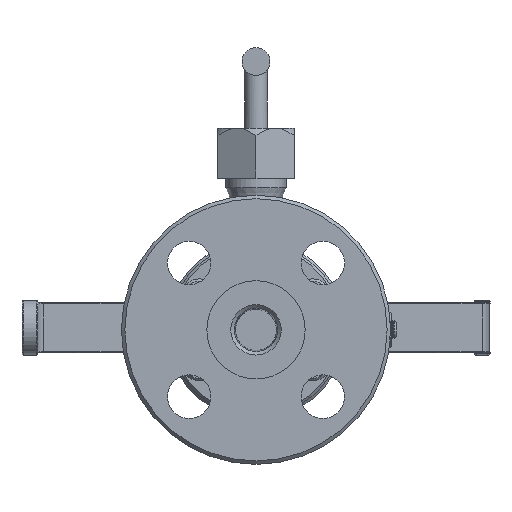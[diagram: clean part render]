
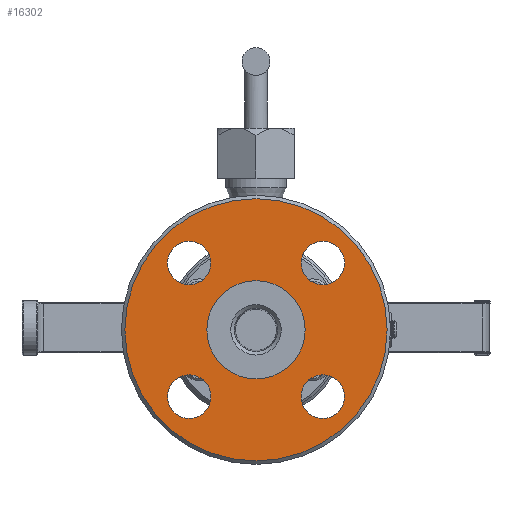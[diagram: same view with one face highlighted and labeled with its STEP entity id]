
A CAD part, left-side view. The second image highlights one B-rep face of the part: STEP entity #16302.
In plain terms, the highlighted planar face has unit normal (-1, 0, 0).
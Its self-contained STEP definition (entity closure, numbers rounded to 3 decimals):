
#3412=FACE_BOUND('',#4548,.T.);
#3413=FACE_BOUND('',#4549,.T.);
#3414=FACE_BOUND('',#4550,.T.);
#3415=FACE_BOUND('',#4551,.T.);
#3416=FACE_BOUND('',#4552,.T.);
#3586=FACE_OUTER_BOUND('',#4547,.T.);
#4547=EDGE_LOOP('',(#11181,#11182));
#4548=EDGE_LOOP('',(#11183));
#4549=EDGE_LOOP('',(#11184));
#4550=EDGE_LOOP('',(#11185));
#4551=EDGE_LOOP('',(#11186));
#4552=EDGE_LOOP('',(#11187,#11188));
#5567=CIRCLE('',#17375,9.5);
#5569=CIRCLE('',#17378,9.5);
#5571=CIRCLE('',#17381,9.5);
#5573=CIRCLE('',#17384,9.5);
#5599=CIRCLE('',#17421,57.25);
#5600=CIRCLE('',#17422,57.25);
#5601=CIRCLE('',#17424,21.45);
#5602=CIRCLE('',#17425,21.45);
#6559=VERTEX_POINT('',#24340);
#6561=VERTEX_POINT('',#24346);
#6563=VERTEX_POINT('',#24352);
#6565=VERTEX_POINT('',#24358);
#6588=VERTEX_POINT('',#24425);
#6589=VERTEX_POINT('',#24426);
#6590=VERTEX_POINT('',#24431);
#6591=VERTEX_POINT('',#24432);
#8321=EDGE_CURVE('',#6559,#6559,#5567,.T.);
#8324=EDGE_CURVE('',#6561,#6561,#5569,.T.);
#8327=EDGE_CURVE('',#6563,#6563,#5571,.T.);
#8330=EDGE_CURVE('',#6565,#6565,#5573,.T.);
#8362=EDGE_CURVE('',#6588,#6589,#5599,.T.);
#8364=EDGE_CURVE('',#6589,#6588,#5600,.T.);
#8365=EDGE_CURVE('',#6590,#6591,#5601,.T.);
#8366=EDGE_CURVE('',#6591,#6590,#5602,.T.);
#11181=ORIENTED_EDGE('',*,*,#8362,.F.);
#11182=ORIENTED_EDGE('',*,*,#8364,.F.);
#11183=ORIENTED_EDGE('',*,*,#8321,.F.);
#11184=ORIENTED_EDGE('',*,*,#8324,.F.);
#11185=ORIENTED_EDGE('',*,*,#8327,.F.);
#11186=ORIENTED_EDGE('',*,*,#8330,.F.);
#11187=ORIENTED_EDGE('',*,*,#8365,.T.);
#11188=ORIENTED_EDGE('',*,*,#8366,.T.);
#15899=PLANE('',#17423);
#16302=ADVANCED_FACE('',(#3586,#3412,#3413,#3414,#3415,#3416),#15899,.F.);
#17375=AXIS2_PLACEMENT_3D('',#24342,#19525,#19526);
#17378=AXIS2_PLACEMENT_3D('',#24348,#19532,#19533);
#17381=AXIS2_PLACEMENT_3D('',#24354,#19539,#19540);
#17384=AXIS2_PLACEMENT_3D('',#24360,#19546,#19547);
#17421=AXIS2_PLACEMENT_3D('',#24427,#19626,#19627);
#17422=AXIS2_PLACEMENT_3D('',#24429,#19629,#19630);
#17423=AXIS2_PLACEMENT_3D('',#24430,#19631,#19632);
#17424=AXIS2_PLACEMENT_3D('',#24433,#19633,#19634);
#17425=AXIS2_PLACEMENT_3D('',#24434,#19635,#19636);
#19525=DIRECTION('center_axis',(-1.,0.,0.));
#19526=DIRECTION('ref_axis',(0.,-1.,0.));
#19532=DIRECTION('center_axis',(-1.,0.,0.));
#19533=DIRECTION('ref_axis',(0.,-1.,0.));
#19539=DIRECTION('center_axis',(-1.,0.,0.));
#19540=DIRECTION('ref_axis',(0.,-1.,0.));
#19546=DIRECTION('center_axis',(-1.,0.,0.));
#19547=DIRECTION('ref_axis',(0.,-1.,0.));
#19626=DIRECTION('center_axis',(1.,0.,0.));
#19627=DIRECTION('ref_axis',(0.,0.,1.));
#19629=DIRECTION('center_axis',(1.,0.,0.));
#19630=DIRECTION('ref_axis',(0.,0.,1.));
#19631=DIRECTION('center_axis',(1.,0.,0.));
#19632=DIRECTION('ref_axis',(0.,0.,1.));
#19633=DIRECTION('center_axis',(1.,0.,0.));
#19634=DIRECTION('ref_axis',(0.,0.,1.));
#19635=DIRECTION('center_axis',(1.,0.,0.));
#19636=DIRECTION('ref_axis',(0.,0.,1.));
#24340=CARTESIAN_POINT('',(2322.967,1145.981,29.168));
#24342=CARTESIAN_POINT('Origin',(2322.967,1136.481,29.168));
#24346=CARTESIAN_POINT('',(2322.967,1087.644,-29.168));
#24348=CARTESIAN_POINT('Origin',(2322.967,1078.144,-29.168));
#24352=CARTESIAN_POINT('',(2322.967,1145.981,-29.168));
#24354=CARTESIAN_POINT('Origin',(2322.967,1136.481,-29.168));
#24358=CARTESIAN_POINT('',(2322.967,1087.644,29.168));
#24360=CARTESIAN_POINT('Origin',(2322.967,1078.144,29.168));
#24425=CARTESIAN_POINT('',(2322.967,1050.062,0.));
#24426=CARTESIAN_POINT('',(2322.967,1164.562,0.));
#24427=CARTESIAN_POINT('Origin',(2322.967,1107.312,0.));
#24429=CARTESIAN_POINT('Origin',(2322.967,1107.312,0.));
#24430=CARTESIAN_POINT('Origin',(2322.967,1085.862,0.));
#24431=CARTESIAN_POINT('',(2322.967,1085.862,0.));
#24432=CARTESIAN_POINT('',(2322.967,1128.762,0.));
#24433=CARTESIAN_POINT('Origin',(2322.967,1107.312,0.));
#24434=CARTESIAN_POINT('Origin',(2322.967,1107.312,0.));
